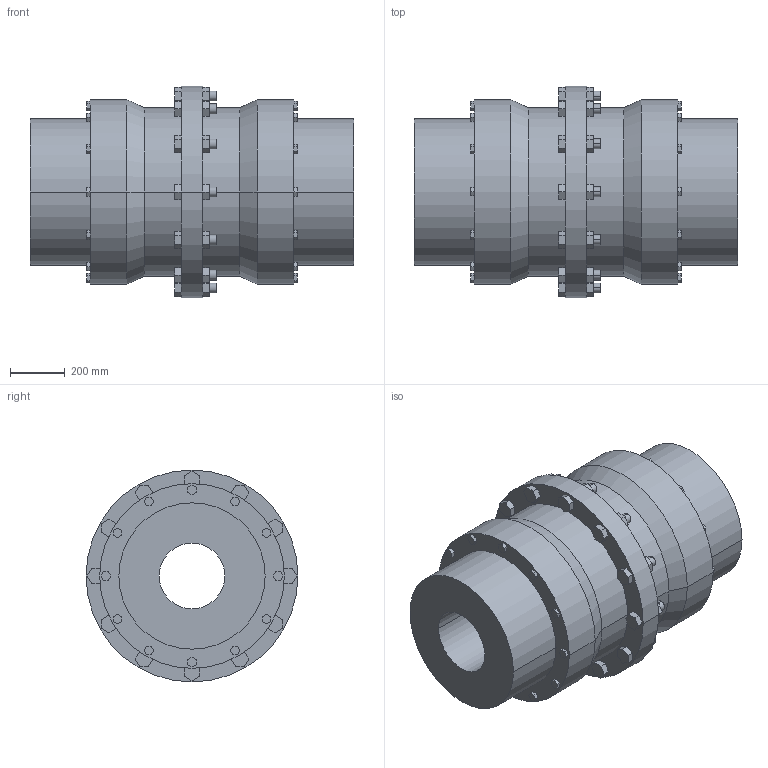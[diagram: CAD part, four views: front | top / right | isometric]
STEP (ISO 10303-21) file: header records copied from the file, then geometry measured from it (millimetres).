
FILE_DESCRIPTION((''),'2;1');
FILE_NAME('A19716600-0_ASM','2019-05-23T',('AB_Roschiwal'),('RENK AG'),'PRO/ENGINEER BY PARAMETRIC TECHNOLOGY CORPORATION, 2015440','PRO/ENGINEER BY PARAMETRIC TECHNOLOGY CORPORATION, 2015440','');
FILE_SCHEMA(('CONFIG_CONTROL_DESIGN'));
Length unit declared in the file: millimetre
Products named in the file (3): SBK335_GEHAEUSE; SBK335_NABE; A19716600-0_ASM
Assembly tree (3 placements, depth 2):
  A19716600-0_ASM
    SBK335_GEHAEUSE
    SBK335_NABE  x2
Bounding box: 1182 x 775 x 775 mm (x, y, z)
Volume: 217701786 mm3; surface area: 6317106.1 mm2
Topology: 3 solids, 3 shells, 422 faces, 1036 edges, 688 vertices
Faces by surface type: plane 362, cylinder 56, cone 4
Entity records: 12052 total; most frequent: CARTESIAN_POINT 2100, ORIENTED_EDGE 2024, DIRECTION 1940, EDGE_CURVE 1012, VECTOR 916, LINE 916, VERTEX_POINT 672, AXIS2_PLACEMENT_3D 512
